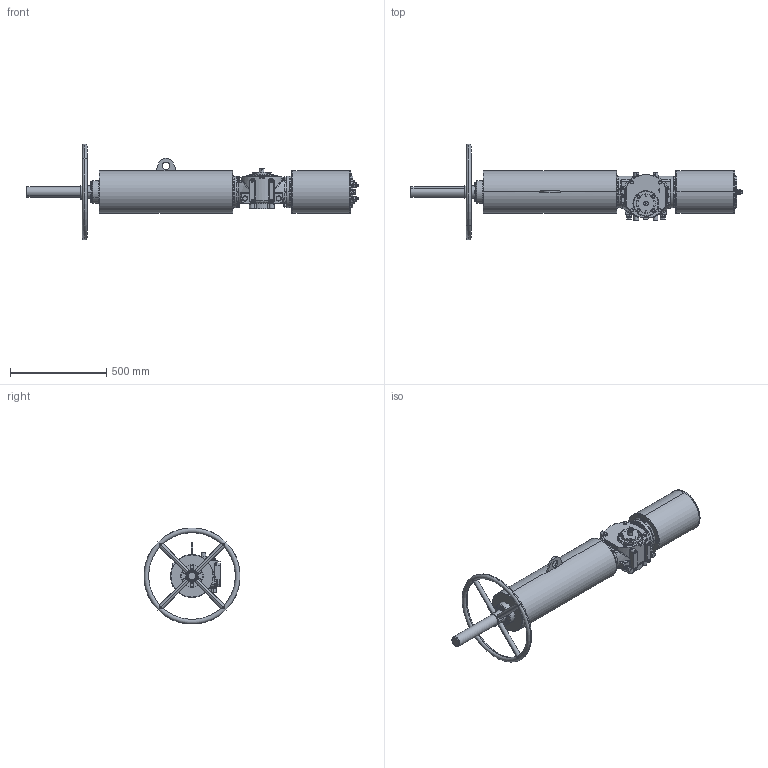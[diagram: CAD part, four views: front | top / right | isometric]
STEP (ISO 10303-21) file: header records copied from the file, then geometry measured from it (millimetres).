
FILE_DESCRIPTION (( 'STEP AP203' ), '1' );
FILE_NAME ('VTS1-200-SR-MS-FO.STEP', '2022-12-31T08:37:22', ( '' ), ( '' ), 'SwSTEP 2.0', 'SolidWorks 2020', '' );
FILE_SCHEMA (( 'CONFIG_CONTROL_DESIGN' ));
Length unit declared in the file: millimetre
Products named in the file (1): VTS1-200-SR-MS-FO
Bounding box: 1725.2 x 498.1 x 498.1 mm (x, y, z)
Volume: 47624431.9 mm3; surface area: 1937151.9 mm2
Topology: 30 solids, 34 shells, 2189 faces, 6036 edges, 3853 vertices
Faces by surface type: plane 770, cylinder 636, cone 414, bspline 199, sphere 96, torus 74
Entity records: 103553 total; most frequent: CARTESIAN_POINT 52011, ORIENTED_EDGE 11668, DIRECTION 9585, EDGE_CURVE 5834, AXIS2_PLACEMENT_3D 3820, VERTEX_POINT 3805, EDGE_LOOP 2411, FACE_OUTER_BOUND 2189
